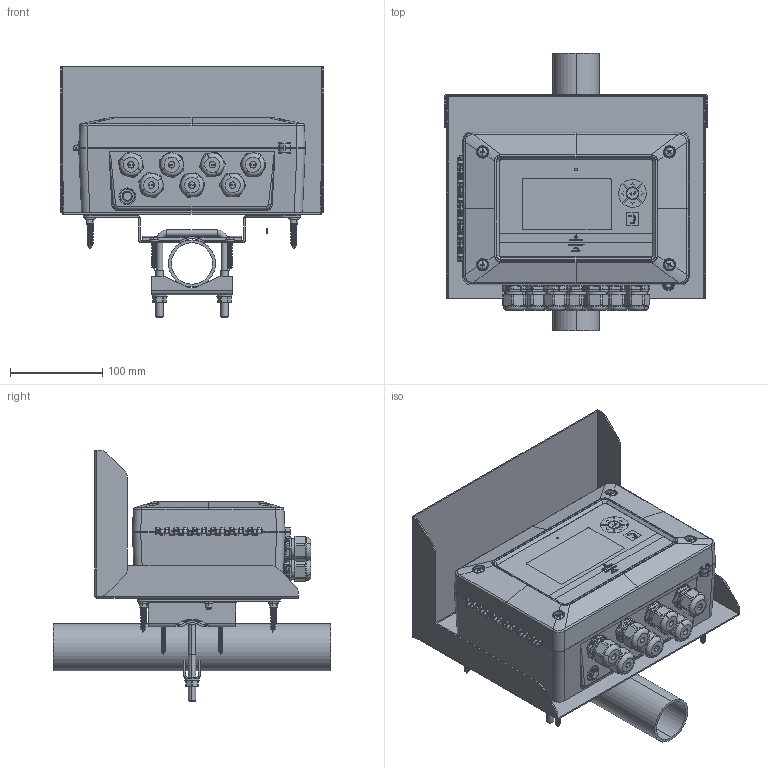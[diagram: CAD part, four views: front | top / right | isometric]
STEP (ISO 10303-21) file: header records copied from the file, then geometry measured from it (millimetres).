
FILE_DESCRIPTION((''),'2;1');
FILE_NAME('GCC-TP1-2405-1001','2025-11-20T09:26:11',('johnarm'),('Rosemount Measurement Division'),'CREO PARAMETRIC BY PTC INC, 2021184','CREO PARAMETRIC BY PTC INC, 2021184','');
FILE_SCHEMA(('CONFIG_CONTROL_DESIGN'));
Products named in the file (1): GCC-TP1-2405-1001
Bounding box: 285 x 300 x 271.9 mm (x, y, z)
Surface area: 581104.2 mm2 (no closed solid volume)
Topology: 0 solids, 109 shells, 2996 faces, 9757 edges, 6697 vertices
Faces by surface type: cylinder 1132, cone 717, plane 706, bspline 295, sphere 75, torus 55, extrusion 16
Entity records: 129216 total; most frequent: CARTESIAN_POINT 45911, DIRECTION 17287, ORIENTED_EDGE 17024, EDGE_CURVE 9634, VERTEX_POINT 6697, AXIS2_PLACEMENT_3D 6677, CIRCLE 3992, VECTOR 3933
